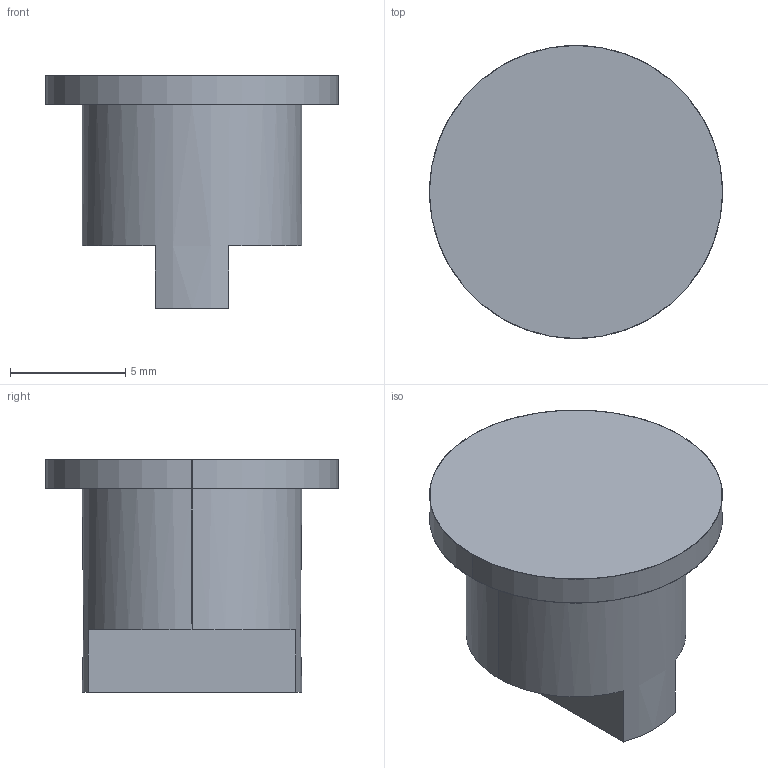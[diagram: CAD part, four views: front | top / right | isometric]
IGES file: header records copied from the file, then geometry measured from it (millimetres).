
Start section: SolidWorks IGES file using analytic representation for surfaces
Global section: file name: C:\Users\Bud\Documents\GitHub\telemetry\Hardware\Masthead hardware\IGES\wind dir shaft.IGS; native system: SolidWorks 2011; preprocessor: SolidWorks 2011; author: Bud; date: 131225.211933; units: inch
Bounding box: 12.7 x 12.7 x 10.09 mm (x, y, z)
Surface area: 615.7 mm2 (no closed solid volume)
Topology: 0 solids, 0 shells, 14 faces, 244 edges, 244 vertices
Faces by surface type: bspline 8, revolution 6
